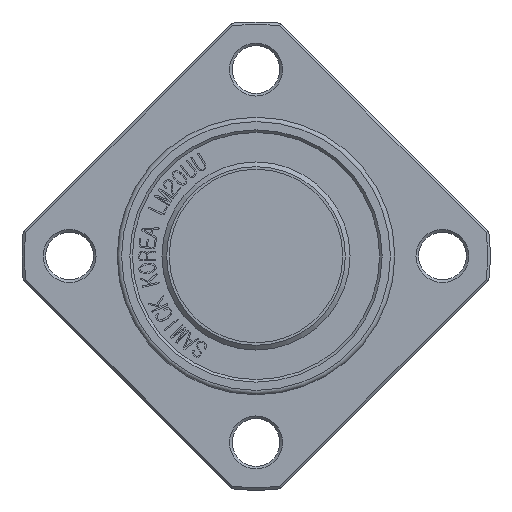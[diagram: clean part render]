
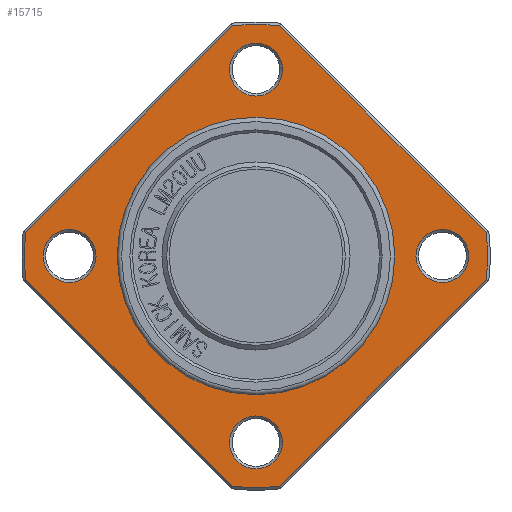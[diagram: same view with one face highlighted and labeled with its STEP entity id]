
A CAD part, front view. The second image highlights one B-rep face of the part: STEP entity #15715.
In plain terms, the highlighted planar face has unit normal (0, -1, 0).
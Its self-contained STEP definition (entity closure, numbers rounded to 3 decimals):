
#2230=FACE_BOUND('',#3417,.T.);
#2231=FACE_BOUND('',#3418,.T.);
#2232=FACE_BOUND('',#3419,.T.);
#2233=FACE_BOUND('',#3420,.T.);
#2234=FACE_BOUND('',#3421,.T.);
#2290=PLANE('',#16635);
#2539=FACE_OUTER_BOUND('',#3416,.T.);
#3416=EDGE_LOOP('',(#10863,#10864,#10865,#10866,#10867,#10868,#10869,#10870));
#3417=EDGE_LOOP('',(#10871));
#3418=EDGE_LOOP('',(#10872));
#3419=EDGE_LOOP('',(#10873,#10874));
#3420=EDGE_LOOP('',(#10875));
#3421=EDGE_LOOP('',(#10876));
#4350=LINE('',#18948,#5502);
#4351=LINE('',#18952,#5503);
#4352=LINE('',#18956,#5504);
#4353=LINE('',#18960,#5505);
#5502=VECTOR('',#17060,10.);
#5503=VECTOR('',#17063,10.);
#5504=VECTOR('',#17066,10.);
#5505=VECTOR('',#17069,10.);
#6667=CIRCLE('',#16633,3.05);
#6669=CIRCLE('',#16636,26.7);
#6670=CIRCLE('',#16637,26.7);
#6671=CIRCLE('',#16638,26.7);
#6672=CIRCLE('',#16639,26.7);
#6673=CIRCLE('',#16640,3.05);
#6674=CIRCLE('',#16641,3.05);
#6675=CIRCLE('',#16642,16.);
#6676=CIRCLE('',#16643,16.);
#6677=CIRCLE('',#16644,3.05);
#6761=VERTEX_POINT('',#18940);
#6763=VERTEX_POINT('',#18946);
#6764=VERTEX_POINT('',#18947);
#6765=VERTEX_POINT('',#18949);
#6766=VERTEX_POINT('',#18951);
#6767=VERTEX_POINT('',#18953);
#6768=VERTEX_POINT('',#18955);
#6769=VERTEX_POINT('',#18957);
#6770=VERTEX_POINT('',#18959);
#6771=VERTEX_POINT('',#18962);
#6772=VERTEX_POINT('',#18964);
#6773=VERTEX_POINT('',#18966);
#6774=VERTEX_POINT('',#18967);
#6775=VERTEX_POINT('',#18970);
#8397=EDGE_CURVE('',#6761,#6761,#6667,.T.);
#8400=EDGE_CURVE('',#6763,#6764,#4350,.T.);
#8401=EDGE_CURVE('',#6763,#6765,#6669,.T.);
#8402=EDGE_CURVE('',#6766,#6765,#4351,.T.);
#8403=EDGE_CURVE('',#6766,#6767,#6670,.T.);
#8404=EDGE_CURVE('',#6768,#6767,#4352,.T.);
#8405=EDGE_CURVE('',#6768,#6769,#6671,.T.);
#8406=EDGE_CURVE('',#6770,#6769,#4353,.T.);
#8407=EDGE_CURVE('',#6770,#6764,#6672,.T.);
#8408=EDGE_CURVE('',#6771,#6771,#6673,.T.);
#8409=EDGE_CURVE('',#6772,#6772,#6674,.T.);
#8410=EDGE_CURVE('',#6773,#6774,#6675,.T.);
#8411=EDGE_CURVE('',#6774,#6773,#6676,.T.);
#8412=EDGE_CURVE('',#6775,#6775,#6677,.T.);
#10863=ORIENTED_EDGE('',*,*,#8400,.F.);
#10864=ORIENTED_EDGE('',*,*,#8401,.T.);
#10865=ORIENTED_EDGE('',*,*,#8402,.F.);
#10866=ORIENTED_EDGE('',*,*,#8403,.T.);
#10867=ORIENTED_EDGE('',*,*,#8404,.F.);
#10868=ORIENTED_EDGE('',*,*,#8405,.T.);
#10869=ORIENTED_EDGE('',*,*,#8406,.F.);
#10870=ORIENTED_EDGE('',*,*,#8407,.T.);
#10871=ORIENTED_EDGE('',*,*,#8408,.F.);
#10872=ORIENTED_EDGE('',*,*,#8409,.F.);
#10873=ORIENTED_EDGE('',*,*,#8410,.F.);
#10874=ORIENTED_EDGE('',*,*,#8411,.F.);
#10875=ORIENTED_EDGE('',*,*,#8412,.F.);
#10876=ORIENTED_EDGE('',*,*,#8397,.F.);
#15715=ADVANCED_FACE('',(#2539,#2230,#2231,#2232,#2233,#2234),#2290,.T.);
#16633=AXIS2_PLACEMENT_3D('',#18941,#17053,#17054);
#16635=AXIS2_PLACEMENT_3D('',#18945,#17058,#17059);
#16636=AXIS2_PLACEMENT_3D('',#18950,#17061,#17062);
#16637=AXIS2_PLACEMENT_3D('',#18954,#17064,#17065);
#16638=AXIS2_PLACEMENT_3D('',#18958,#17067,#17068);
#16639=AXIS2_PLACEMENT_3D('',#18961,#17070,#17071);
#16640=AXIS2_PLACEMENT_3D('',#18963,#17072,#17073);
#16641=AXIS2_PLACEMENT_3D('',#18965,#17074,#17075);
#16642=AXIS2_PLACEMENT_3D('',#18968,#17076,#17077);
#16643=AXIS2_PLACEMENT_3D('',#18969,#17078,#17079);
#16644=AXIS2_PLACEMENT_3D('',#18971,#17080,#17081);
#17053=DIRECTION('center_axis',(0.,-1.,0.));
#17054=DIRECTION('ref_axis',(0.,0.,-1.));
#17058=DIRECTION('center_axis',(0.,-1.,0.));
#17059=DIRECTION('ref_axis',(0.,0.,-1.));
#17060=DIRECTION('',(0.707,0.,-0.707));
#17061=DIRECTION('center_axis',(0.,-1.,0.));
#17062=DIRECTION('ref_axis',(1.,0.,0.));
#17063=DIRECTION('',(0.707,0.,0.707));
#17064=DIRECTION('center_axis',(0.,-1.,0.));
#17065=DIRECTION('ref_axis',(1.,0.,0.));
#17066=DIRECTION('',(-0.707,0.,0.707));
#17067=DIRECTION('center_axis',(0.,-1.,0.));
#17068=DIRECTION('ref_axis',(1.,0.,0.));
#17069=DIRECTION('',(-0.707,0.,-0.707));
#17070=DIRECTION('center_axis',(0.,-1.,0.));
#17071=DIRECTION('ref_axis',(1.,0.,0.));
#17072=DIRECTION('center_axis',(0.,-1.,0.));
#17073=DIRECTION('ref_axis',(1.,0.,0.));
#17074=DIRECTION('center_axis',(0.,-1.,0.));
#17075=DIRECTION('ref_axis',(0.,0.,
1.));
#17076=DIRECTION('center_axis',(0.,-1.,0.));
#17077=DIRECTION('ref_axis',(1.,0.,0.));
#17078=DIRECTION('center_axis',(0.,-1.,0.));
#17079=DIRECTION('ref_axis',(1.,0.,0.));
#17080=DIRECTION('center_axis',(0.,-1.,0.));
#17081=DIRECTION('ref_axis',(-1.,0.,0.));
#18940=CARTESIAN_POINT('',(0.,6.5,-18.45));
#18941=CARTESIAN_POINT('Origin',(0.,6.5,-21.5));
#18945=CARTESIAN_POINT('Origin',(16.,6.5,0.));
#18946=CARTESIAN_POINT('',(2.712,6.5,26.562));
#18947=CARTESIAN_POINT('',(26.562,6.5,2.712));
#18948=CARTESIAN_POINT('',(24.637,6.5,4.637));
#18949=CARTESIAN_POINT('',(-2.712,6.5,26.562));
#18950=CARTESIAN_POINT('Origin',(0.,6.5,0.));
#18951=CARTESIAN_POINT('',(-26.562,6.5,2.712));
#18952=CARTESIAN_POINT('',(-4.637,6.5,24.637));
#18953=CARTESIAN_POINT('',(-26.562,6.5,-2.712));
#18954=CARTESIAN_POINT('Origin',(0.,6.5,0.));
#18955=CARTESIAN_POINT('',(-2.712,6.5,-26.562));
#18956=CARTESIAN_POINT('',(-16.637,6.5,-12.637));
#18957=CARTESIAN_POINT('',(2.712,6.5,-26.562));
#18958=CARTESIAN_POINT('Origin',(0.,6.5,0.));
#18959=CARTESIAN_POINT('',(26.562,6.5,-2.712));
#18960=CARTESIAN_POINT('',(12.637,6.5,-16.637));
#18961=CARTESIAN_POINT('Origin',(0.,6.5,0.));
#18962=CARTESIAN_POINT('',(18.45,6.5,0.));
#18963=CARTESIAN_POINT('Origin',(21.5,6.5,0.));
#18964=CARTESIAN_POINT('',(0.,6.5,18.45));
#18965=CARTESIAN_POINT('Origin',(0.,6.5,21.5));
#18966=CARTESIAN_POINT('',(16.,6.5,0.));
#18967=CARTESIAN_POINT('',(-16.,6.5,0.));
#18968=CARTESIAN_POINT('Origin',(0.,6.5,0.));
#18969=CARTESIAN_POINT('Origin',(0.,6.5,0.));
#18970=CARTESIAN_POINT('',(-18.45,6.5,0.));
#18971=CARTESIAN_POINT('Origin',(-21.5,6.5,0.));
